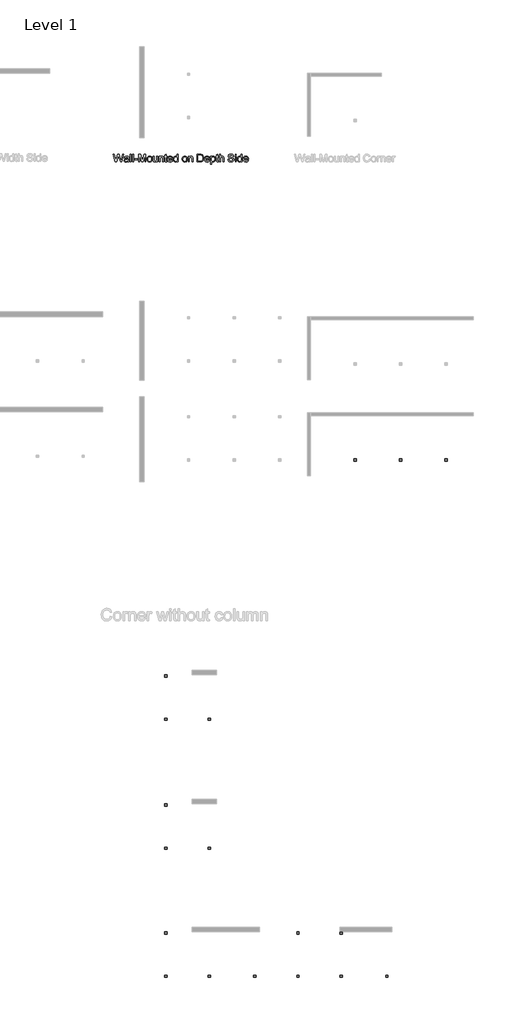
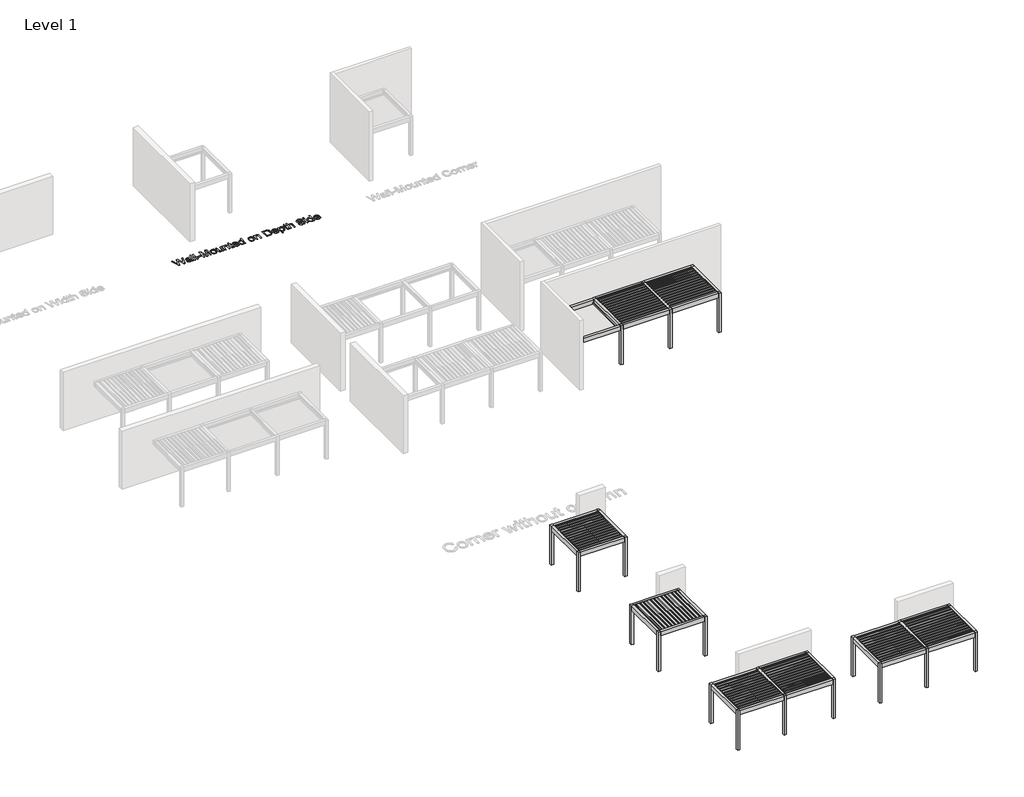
# One storey, part 65 of 80: 6 proxies.
"""IFC4 building model written with IfcOpenShell, lengths in millimetres."""

from ifc_helpers import new_model, si_unit, origin, origin_with_axes, place, context, project, spatial, polyline, outline, extrude, transform, mapped, element, save
from components import generic_models_92a7e284, generic_models_5641a38b, generic_models_9754287f, generic_models_edf925c2, generic_models_49bb953a

model = new_model("IFC4")

# Units and contexts
model_context = context("Model", 3, world=origin())
ifc_project = project(units=[si_unit("LENGTHUNIT", "METRE", prefix="MILLI")], contexts=[model_context])

# Site, building, storey
site = spatial("IfcSite", under=ifc_project)
building = spatial("IfcBuilding", under=site)
storey = spatial("IfcBuildingStorey", under=building, Name="Level 1", Elevation=0.0)

# Proxies
placement = place(None, origin())
generic_models_shape = generic_models_92a7e284(model_context)
element("IfcBuildingElementProxy", 1, Name="Renson_Amani_Patio_Cover : Renson_Amani_Patio_Cover", ObjectType="Renson_Amani_Patio_Cover : Renson_Amani_Patio_Cover", at=placement, inside=storey, context=model_context, shape_type="MappedRepresentation", body=[
    mapped(generic_models_shape, transform((192063.165057, 19428.5861401, 0.0), x_axis=(1.0, 0.0, 0.0), y_axis=(0.0, 1.0, 0.0), z_axis=(0.0, 0.0, 1.0))),
])
generic_models_2_shape = generic_models_5641a38b(model_context)
element("IfcBuildingElementProxy", 2, Name="Renson_Amani_Patio_Cover : Renson_Amani_Patio_Cover", ObjectType="Renson_Amani_Patio_Cover : Renson_Amani_Patio_Cover", at=placement, inside=storey, context=model_context, shape_type="MappedRepresentation", body=[
    mapped(generic_models_2_shape, transform((201674.0111744, 44984.0685101, 0.0), x_axis=(1.0, 0.0, 0.0), y_axis=(0.0, 1.0, 0.0), z_axis=(0.0, 0.0, 1.0))),
])
generic_models_3_shape = generic_models_9754287f(model_context)
element("IfcBuildingElementProxy", 3, Name="Renson_Amani_Patio_Cover : Renson_Amani_Patio_Cover", ObjectType="Renson_Amani_Patio_Cover : Renson_Amani_Patio_Cover", at=placement, inside=storey, context=model_context, shape_type="MappedRepresentation", body=[
    mapped(generic_models_3_shape, transform((200763.165057, 11004.0136657, 0.0), x_axis=(1.0, 0.0, 0.0), y_axis=(0.0, 1.0, 0.0), z_axis=(0.0, 0.0, 1.0))),
])
generic_models_4_shape = generic_models_edf925c2(model_context)
element("IfcBuildingElementProxy", 4, Name="Renson_Amani_Patio_Cover : Renson_Amani_Patio_Cover", ObjectType="Renson_Amani_Patio_Cover : Renson_Amani_Patio_Cover", at=placement, inside=storey, context=model_context, shape_type="MappedRepresentation", body=[
    mapped(generic_models_4_shape, transform((192063.165057, 27928.5861401, 0.0), x_axis=(1.0, 0.0, 0.0), y_axis=(0.0, 1.0, 0.0), z_axis=(0.0, 0.0, 1.0))),
])
generic_models_5_shape = generic_models_49bb953a(model_context)
element("IfcBuildingElementProxy", 5, Name="Renson_Amani_Patio_Cover : Renson_Amani_Patio_Cover", ObjectType="Renson_Amani_Patio_Cover : Renson_Amani_Patio_Cover", at=placement, inside=storey, context=model_context, shape_type="MappedRepresentation", body=[
    mapped(generic_models_5_shape, transform((192063.165057, 11004.0136657, 0.0), x_axis=(1.0, 0.0, 0.0), y_axis=(0.0, 1.0, 0.0), z_axis=(0.0, 0.0, 1.0))),
])
element("IfcBuildingElementProxy", 6, Name="500mm Arial", ObjectType="500mm Arial", at=placement, inside=storey, context=model_context, shape_type="SweptSolid", body=[
    extrude(outline(polyline([(187305.9311671, 63184.635256), (187168.9564376, 63686.9168067), (187233.7036687, 63686.9168067), (187313.1661797, 63356.8040297), (187337.691646, 63254.9007171), (187363.933895, 63345.0318059), (187463.5072884, 63686.9168067), (187556.8266878, 63686.9168067), (187629.1768136, 63439.0869693), (187660.1708716, 63347.1164705), (187683.0102122, 63254.9007171), (187706.7999145, 63353.8609738), (187786.9981895, 63686.9168067), (187851.7454206, 63686.9168067), (187714.6480638, 63184.635256), (187647.5709133, 63184.635256), (187527.1508736, 63572.1376242), (187510.3509291, 63626.2162775), (187491.46632, 63561.1011644), (187381.7148581, 63184.635256), (187305.9311671, 63184.635256)])), origin_with_axes(), (0.0, 0.0, 1.0), 5.0),
    extrude(outline(polyline([(188142.1269422, 63231.7241514), (188112.1292311, 63206.0030685), (188081.242472, 63189.1724673), (188048.7615575, 63179.8834469), (188013.9813805, 63176.7871068), (187986.026181, 63178.6495094), (187961.5122109, 63184.2367172), (187940.4394704, 63193.5487302), (187922.8079594, 63206.5855484), (187908.8859251, 63222.5194373), (187898.9416149, 63240.5226624), (187892.9750288, 63260.5952238), (187890.9861668, 63282.7371214), (187893.9905364, 63308.7647725), (187903.0036453, 63332.4011907), (187916.906519, 63352.6347005), (187934.5801832, 63368.4536262), (187955.3501875, 63380.4097911), (187978.5420816, 63389.055018), (188032.8659896, 63398.4973225), (188097.0613978, 63408.4301364), (188141.7590602, 63420.0797329), (188142.1269422, 63434.0592487), (188137.8043287, 63462.079594), (188124.8364884, 63480.4123801), (188111.7613491, 63488.3524998), (188095.8351244, 63494.0240139), (188055.4294186, 63498.5612252), (188018.0280825, 63495.5415272), (187991.9084608, 63486.482433), (187974.0968409, 63469.7284738), (187961.6195099, 63443.6241806), (187898.834316, 63451.4723298), (187909.7328201, 63485.8079827), (187925.99627, 63512.7859957), (187949.1421789, 63533.4180443), (187980.6880599, 63548.7158039), (188019.2696842, 63558.1887653), (188063.5228225, 63561.3464191), (188105.9672077, 63558.5566473), (188139.6130819, 63550.1873319), (188164.9816111, 63537.6027019), (188182.5939616, 63522.1669866), (188194.274215, 63503.0831081), (188201.8464527, 63479.5539888), (188204.912136, 63424.6169442), (188204.912136, 63346.5033339), (188208.1004466, 63237.4263223), (188212.8215989, 63210.4636377), (188220.6084345, 63184.635256), (188157.8232406, 63184.635256), (188147.7677994, 63206.462921), (188142.1269422, 63231.7241514)]), holes=[polyline([(188142.1269422, 63357.2945391), (188099.94314, 63346.840559), (188040.8367662, 63338.042048), (187986.8194265, 63327.8639794), (187972.7632686, 63320.9048784), (187962.3552739, 63311.3092897), (187955.9173389, 63299.8129773), (187953.7713606, 63287.1517053), (187958.4465277, 63268.4816941), (187972.4720287, 63253.1839344), (187995.5412955, 63242.9752091), (188027.3477597, 63239.5723006), (188061.0702759, 63243.3277626), (188090.8687175, 63254.5941487), (188115.0263019, 63271.1948238), (188131.8262463, 63290.9531526), (188139.2758567, 63311.3092897), (188141.7590602, 63339.513576), (188142.1269422, 63357.2945391)])]), origin_with_axes(), (0.0, 0.0, 1.0), 5.0),
    extrude(outline(polyline([(188291.2417775, 63184.635256), (188291.2417775, 63686.9168067), (188354.0269714, 63686.9168067), (188354.0269714, 63184.635256), (188291.2417775, 63184.635256)])), origin_with_axes(), (0.0, 0.0, 1.0), 5.0),
    extrude(outline(polyline([(188448.2047621, 63184.635256), (188448.2047621, 63686.9168067), (188510.989956, 63686.9168067), (188510.989956, 63184.635256), (188448.2047621, 63184.635256)])), origin_with_axes(), (0.0, 0.0, 1.0), 5.0),
    extrude(outline(polyline([(188573.7751498, 63333.7500914), (188573.7751498, 63396.5352852), (188769.9788806, 63396.5352852), (188769.9788806, 63333.7500914), (188573.7751498, 63333.7500914)])), origin_with_axes(), (0.0, 0.0, 1.0), 5.0),
    extrude(outline(polyline([(188848.4603729, 63184.635256), (188848.4603729, 63686.9168067), (188956.4950522, 63686.9168067), (189059.2567561, 63332.8917), (189079.9807752, 63258.947419), (189102.4215769, 63339.0230666), (189203.4664982, 63686.9168067), (189311.5011775, 63686.9168067), (189311.5011775, 63184.635256), (189248.7159837, 63184.635256), (189248.7159837, 63624.1316129), (189122.5324593, 63184.635256), (189037.4290911, 63184.635256), (188911.2455667, 63624.1316129), (188911.2455667, 63184.635256), (188848.4603729, 63184.635256)])), origin_with_axes(), (0.0, 0.0, 1.0), 5.0),
    extrude(outline(polyline([(189397.830819, 63369.0667629), (189401.2260633, 63416.8377728), (189411.411796, 63458.0022352), (189428.3880173, 63492.5601502), (189452.154727, 63520.5115176), (189476.0823851, 63538.376787), (189502.4932467, 63551.1376937), (189531.3873117, 63558.7942377), (189562.7645802, 63561.3464191), (189597.4029693, 63558.2385826), (189628.7227563, 63548.9150733), (189656.723941, 63533.3758911), (189681.4065236, 63511.621036), (189701.551895, 63484.3862721), (189715.9414459, 63452.4073632), (189724.5751765, 63415.6843095), (189727.4530867, 63374.2171108), (189722.3640524, 63310.7881235), (189716.0027596, 63284.7528081), (189707.0969496, 63262.5036116), (189695.7577536, 63243.2856095), (189682.0963024, 63226.3438772), (189666.1125961, 63211.6784147), (189647.8066348, 63199.2892221), (189607.0790322, 63182.4126356), (189562.7645802, 63176.7871068), (189527.6203534, 63179.8834469), (189496.0093265, 63189.1724673), (189467.9314996, 63204.6541679), (189443.3868728, 63226.3285488), (189423.4560993, 63253.8277279), (189409.2198325, 63286.7838233), (189400.6780724, 63325.196835), (189397.830819, 63369.0667629)]), holes=[polyline([(189460.6160129, 63369.1893902), (189462.4324302, 63338.7356588), (189467.8816823, 63312.3669504), (189476.963769, 63290.083265), (189489.6786905, 63271.8846025), (189505.1450627, 63257.7479704), (189522.4815017, 63247.6503761), (189541.6880076, 63241.5918195), (189562.7645802, 63239.5723006), (189583.7338539, 63241.6033158), (189602.8637177, 63247.6963613), (189620.1541715, 63257.8514372), (189635.6052152, 63272.0685435), (189648.3201367, 63290.4473149), (189657.4022235, 63313.087386), (189662.8514755, 63339.9887569), (189664.6678929, 63371.1514275), (189662.8399792, 63400.6394687), (189657.3562382, 63426.3183984), (189648.2166699, 63448.1882166), (189635.4212742, 63466.2489233), (189619.9127489, 63480.3855554), (189602.6337914, 63490.4831497), (189583.5844019, 63496.5417063), (189562.7645802, 63498.5612252), (189541.6880076, 63496.5493705), (189522.4815017, 63490.5138066), (189505.1450627, 63480.4545333), (189489.6786905, 63466.3715506), (189476.963769, 63448.2265376), (189467.8816823, 63425.9811732), (189462.4324302, 63399.6354574), (189460.6160129, 63369.1893902)])]), origin_with_axes(), (0.0, 0.0, 1.0), 5.0),
    extrude(outline(polyline([(190033.5309067, 63184.635256), (190033.5309067, 63248.0335865), (190010.8141935, 63216.8632516), (189984.3573467, 63194.5987267), (189954.1603662, 63181.2400117), (189920.2232522, 63176.7871068), (189889.6430613, 63179.9141037), (189861.178192, 63189.2950946), (189837.2965191, 63203.3972377), (189820.4659178, 63220.6876915), (189809.1382181, 63241.6876221), (189801.7652497, 63266.9181956), (189798.0864298, 63325.2888055), (189798.0864298, 63553.4982698), (189860.8716236, 63553.4982698), (189860.8716236, 63354.8419924), (189864.6730709, 63290.8305253), (189873.8241355, 63269.4780411), (189889.5051056, 63253.2452481), (189910.6736487, 63242.9905375), (189936.2874326, 63239.5723006), (189963.3727445, 63243.0671796), (189988.710617, 63253.5518164), (190009.6032486, 63270.060521), (190023.3528382, 63291.6276029), (190030.9863896, 63321.1654615), (190033.5309067, 63361.5864957), (190033.5309067, 63553.4982698), (190096.3161005, 63553.4982698), (190096.3161005, 63184.635256), (190033.5309067, 63184.635256)])), origin_with_axes(), (0.0, 0.0, 1.0), 5.0),
    extrude(outline(polyline([(190182.6457421, 63184.635256), (190182.6457421, 63553.4982698), (190245.4309359, 63553.4982698), (190245.4309359, 63501.9947905), (190267.2432725, 63527.961128), (190293.4395363, 63546.5085119), (190324.0197271, 63557.6369423), (190358.9838451, 63561.3464191), (190389.9319179, 63558.3573778), (190418.27416, 63549.3902542), (190441.9105782, 63535.5640226), (190458.7411795, 63517.9976573), (190470.1608497, 63496.7371436), (190477.5644749, 63471.8284669), (190480.8754128, 63411.1279377), (190480.8754128, 63184.635256), (190418.090219, 63184.635256), (190418.090219, 63402.6666518), (190416.2814658, 63435.1322379), (190410.8552064, 63458.2168331), (190400.8457505, 63474.7561944), (190385.2874078, 63487.586079), (190365.3451379, 63495.8174387), (190342.1839007, 63498.5612252), (190323.1191827, 63497.0207194), (190305.4110295, 63492.3992018), (190289.0594413, 63484.6966725), (190274.0644179, 63473.9131315), (190261.5372695, 63458.8223055), (190252.5893064, 63438.1979212), (190247.2205285, 63412.0399785), (190245.4309359, 63380.3484774), (190245.4309359, 63184.635256), (190182.6457421, 63184.635256)])), origin_with_axes(), (0.0, 0.0, 1.0), 5.0),
    extrude(outline(polyline([(190700.6235913, 63236.9971266), (190708.4717405, 63182.795846), (190661.5054725, 63176.7871068), (190631.3698057, 63179.3929376), (190608.8983472, 63187.21043), (190593.0181077, 63199.2585653), (190582.6560982, 63214.5563249), (190576.9539272, 63240.8292308), (190575.0532036, 63285.8028047), (190575.0532036, 63490.713076), (190527.9643082, 63490.713076), (190527.9643082, 63553.4982698), (190575.0532036, 63553.4982698), (190575.0532036, 63643.1388493), (190637.8383974, 63680.0496762), (190637.8383974, 63553.4982698), (190700.6235913, 63553.4982698), (190700.6235913, 63490.713076), (190637.8383974, 63490.713076), (190637.8383974, 63287.6422146), (190641.1493354, 63255.2685991), (190651.8792269, 63243.8029435), (190673.2776963, 63239.5723006), (190700.6235913, 63236.9971266)])), origin_with_axes(), (0.0, 0.0, 1.0), 5.0),
    extrude(outline(polyline([(191021.6619457, 63294.5093452), (191083.2208663, 63286.661196), (191073.7823938, 63262.0054381), (191061.0406476, 63240.2774078), (191044.9956277, 63221.477105), (191025.647334, 63205.6045297), (191003.195036, 63192.9969072), (190977.8380031, 63183.9914625), (190949.5762352, 63178.5881957), (190918.4097324, 63176.7871068), (190879.452562, 63179.8949432), (190844.7413629, 63189.2184525), (190814.2761352, 63204.7576347), (190788.0568788, 63226.5124898), (190766.972642, 63253.8775453), (190751.9124728, 63286.2473287), (190742.8763713, 63323.6218402), (190739.8643374, 63366.0010796), (190742.9070281, 63409.8173581), (190752.0351001, 63448.4373034), (190767.2485535, 63481.8609155), (190788.5473881, 63510.0881944), (190814.6976666, 63532.5136677), (190844.4654514, 63548.5318629), (190877.8507425, 63558.14278), (190914.8535398, 63561.3464191), (190950.6645528, 63558.1504442), (190983.0496647, 63548.5625197), (191012.0088755, 63532.5826456), (191037.5421852, 63510.2108217), (191058.3849995, 63482.0448565), (191073.272724, 63448.682558), (191082.2053587, 63410.1239264), (191085.1829036, 63366.3689616), (191084.8150216, 63349.4463898), (190802.6495313, 63349.4463898), (190806.2861981, 63324.3920931), (190813.5173786, 63302.4494649), (190824.3430727, 63283.6185053), (190838.7632805, 63267.8992142), (190855.9809243, 63255.5061895), (190875.1989264, 63246.654029), (190896.4172869, 63241.3427327), (190919.6360057, 63239.5723006), (190953.0519536, 63242.8525817), (190981.1949263, 63252.6934251), (191004.0649236, 63269.7079674), (191021.6619457, 63294.5093452)]), holes=[polyline([(190802.6495313, 63412.2315837), (191022.3977097, 63412.2315837), (191013.905767, 63445.4022769), (190997.2591067, 63469.1306656), (190980.1372655, 63482.0065354), (190960.6548482, 63491.2035853), (190938.8118547, 63496.7218152), (190914.6082851, 63498.5612252), (190872.2865273, 63492.6904417), (190853.873267, 63485.3519623), (190837.2917525, 63475.0780912), (190823.3773824, 63462.3440092), (190812.9655556, 63447.6248973), (190806.0562718, 63430.9207554), (190802.6495313, 63412.2315837)])]), origin_with_axes(), (0.0, 0.0, 1.0), 5.0),
    extrude(outline(polyline([(191375.5644251, 63184.635256), (191375.5644251, 63243.8642572), (191356.7794507, 63214.5180039), (191334.0244165, 63193.5563944), (191307.2993224, 63180.9794287), (191276.6041684, 63176.7871068), (191236.0145216, 63182.8571597), (191198.8584401, 63201.0673184), (191167.4045295, 63230.1453245), (191143.9213955, 63268.8189192), (191129.2980862, 63315.5246042), (191124.4236497, 63368.6988809), (191128.9148758, 63421.2140357), (191142.3885538, 63468.6401563), (191152.4899803, 63489.7703784), (191164.8293555, 63508.2794412), (191179.4066796, 63524.1673449), (191196.2219525, 63537.4340894), (191234.19044, 63555.3683366), (191276.3589137, 63561.3464191), (191307.0770603, 63557.0697909), (191334.2390143, 63544.2399063), (191357.2622958, 63524.573548), (191375.5644251, 63499.7874985), (191375.5644251, 63686.9168067), (191438.3496189, 63686.9168067), (191438.3496189, 63184.635256), (191375.5644251, 63184.635256)]), holes=[polyline([(191187.2088436, 63368.9441356), (191188.9792757, 63338.4980684), (191194.290572, 63312.1523526), (191203.1427325, 63289.9069882), (191215.5357572, 63271.7619752), (191230.3353433, 63257.6789926), (191246.407188, 63247.6197192), (191263.7512912, 63241.5841553), (191282.367653, 63239.5723006), (191301.0721532, 63241.4921848), (191318.3127896, 63247.2518373), (191334.0895622, 63256.8512581), (191348.4024711, 63270.2904472), (191360.285826, 63287.6767036), (191368.7739366, 63309.1173261), (191373.866803, 63334.6123148), (191375.5644251, 63364.1616696), (191373.8361461, 63396.5582778), (191368.6513093, 63424.3410327), (191360.0099145, 63447.5099342), (191347.9119618, 63466.0649823), (191333.2848204, 63480.2820886), (191317.0558595, 63490.4371645), (191299.225079, 63496.53021), (191279.792479, 63498.5612252), (191260.8082352, 63496.6106842), (191243.464132, 63490.7590612), (191227.7601693, 63481.0063563), (191213.6963472, 63467.3525693), (191202.1080644, 63449.4987962), (191193.8307195, 63427.1461329), (191188.8643125, 63400.2945794), (191187.2088436, 63368.9441356)])]), origin_with_axes(), (0.0, 0.0, 1.0), 5.0),
    extrude(outline(polyline([(191713.034842, 63369.0667629), (191716.4300863, 63416.8377728), (191726.615819, 63458.0022352), (191743.5920402, 63492.5601502), (191767.35875, 63520.5115176), (191791.2864081, 63538.376787), (191817.6972696, 63551.1376937), (191846.5913347, 63558.7942377), (191877.9686032, 63561.3464191), (191912.6069923, 63558.2385826), (191943.9267792, 63548.9150733), (191971.927964, 63533.3758911), (191996.6105466, 63511.621036), (192016.755918, 63484.3862721), (192031.1454689, 63452.4073632), (192039.7791995, 63415.6843095), (192042.6571097, 63374.2171108), (192037.5680754, 63310.7881235), (192031.2067826, 63284.7528081), (192022.3009726, 63262.5036116), (192010.9617765, 63243.2856095), (191997.3003254, 63226.3438772), (191981.3166191, 63211.6784147), (191963.0106577, 63199.2892221), (191922.2830552, 63182.4126356), (191877.9686032, 63176.7871068), (191842.8243763, 63179.8834469), (191811.2133495, 63189.1724673), (191783.1355226, 63204.6541679), (191758.5908957, 63226.3285488), (191738.6601222, 63253.8277279), (191724.4238554, 63286.7838233), (191715.8820954, 63325.196835), (191713.034842, 63369.0667629)]), holes=[polyline([(191775.8200359, 63369.1893902), (191777.6364532, 63338.7356588), (191783.0857053, 63312.3669504), (191792.167792, 63290.083265), (191804.8827135, 63271.8846025), (191820.3490857, 63257.7479704), (191837.6855247, 63247.6503761), (191856.8920305, 63241.5918195), (191877.9686032, 63239.5723006), (191898.9378769, 63241.6033158), (191918.0677407, 63247.6963613), (191935.3581944, 63257.8514372), (191950.8092382, 63272.0685435), (191963.5241597, 63290.4473149), (191972.6062464, 63313.087386), (191978.0554985, 63339.9887569), (191979.8719158, 63371.1514275), (191978.0440022, 63400.6394687), (191972.5602612, 63426.3183984), (191963.4206929, 63448.1882166), (191950.6252972, 63466.2489233), (191935.1167719, 63480.3855554), (191917.8378144, 63490.4831497), (191898.7884248, 63496.5417063), (191877.9686032, 63498.5612252), (191856.8920305, 63496.5493705), (191837.6855247, 63490.5138066), (191820.3490857, 63480.4545333), (191804.8827135, 63466.3715506), (191792.167792, 63448.2265376), (191783.0857053, 63425.9811732), (191777.6364532, 63399.6354574), (191775.8200359, 63369.1893902)])]), origin_with_axes(), (0.0, 0.0, 1.0), 5.0),
    extrude(outline(polyline([(192113.2904528, 63184.635256), (192113.2904528, 63553.4982698), (192176.0756466, 63553.4982698), (192176.0756466, 63501.9947905), (192197.8879832, 63527.961128), (192224.084247, 63546.5085119), (192254.6644378, 63557.6369423), (192289.6285558, 63561.3464191), (192320.5766286, 63558.3573778), (192348.9188707, 63549.3902542), (192372.5552889, 63535.5640226), (192389.3858901, 63517.9976573), (192400.8055604, 63496.7371436), (192408.2091856, 63471.8284669), (192411.5201235, 63411.1279377), (192411.5201235, 63184.635256), (192348.7349297, 63184.635256), (192348.7349297, 63402.6666518), (192346.9261765, 63435.1322379), (192341.4999171, 63458.2168331), (192331.4904612, 63474.7561944), (192315.9321184, 63487.586079), (192295.9898486, 63495.8174387), (192272.8286113, 63498.5612252), (192253.7638934, 63497.0207194), (192236.0557402, 63492.3992018), (192219.704152, 63484.6966725), (192204.7091286, 63473.9131315), (192192.1819802, 63458.8223055), (192183.2340171, 63438.1979212), (192177.8652392, 63412.0399785), (192176.0756466, 63380.3484774), (192176.0756466, 63184.635256), (192113.2904528, 63184.635256)])), origin_with_axes(), (0.0, 0.0, 1.0), 5.0),
    extrude(outline(polyline([(192701.901645, 63184.635256), (192701.901645, 63686.9168067), (192875.1740648, 63686.9168067), (192926.9534556, 63685.1080536), (192964.8146443, 63679.6817942), (193004.8524681, 63665.7329352), (193038.636298, 63643.751986), (193057.2526598, 63625.7870819), (193073.3704897, 63605.4922585), (193086.9897877, 63582.8675158), (193098.1105539, 63557.9128538), (193112.9178042, 63501.9334768), (193117.8535543, 63438.4738327), (193114.5119595, 63384.563792), (193104.4871751, 63337.122343), (193089.2200723, 63296.7319656), (193070.1515222, 63263.9751396), (193048.2012298, 63238.116101), (193024.2889002, 63218.4190859), (192996.8357063, 63203.811105), (192964.2628213, 63193.2191692), (192926.5089315, 63186.7812343), (192883.5127233, 63184.635256), (192701.901645, 63184.635256)]), holes=[polyline([(192764.6868389, 63247.4204498), (192875.7872014, 63247.4204498), (192921.741794, 63249.6890555), (192956.598613, 63256.4948724), (192982.9021757, 63267.4393617), (193003.1969991, 63282.1239847), (193025.0093357, 63309.3012671), (193041.3954129, 63344.4799829), (193051.6501235, 63387.8134162), (193055.0683604, 63439.4548513), (193053.3937309, 63475.9058257), (193048.3698424, 63507.8809024), (193039.9966949, 63535.3800816), (193028.2742884, 63558.4033631), (193014.1529848, 63577.4719132), (192998.5831457, 63593.106898), (192981.5647714, 63605.3083175), (192963.0978616, 63614.0761717), (192926.9841124, 63621.6177526), (192874.0704188, 63624.1316129), (192764.6868389, 63624.1316129), (192764.6868389, 63247.4204498)])]), origin_with_axes(), (0.0, 0.0, 1.0), 5.0),
    extrude(outline(polyline([(193454.5882072, 63294.5093452), (193516.1471277, 63286.661196), (193506.7086553, 63262.0054381), (193493.9669091, 63240.2774078), (193477.9218891, 63221.477105), (193458.5735955, 63205.6045297), (193436.1212974, 63192.9969072), (193410.7642645, 63183.9914625), (193382.5024966, 63178.5881957), (193351.3359939, 63176.7871068), (193312.3788234, 63179.8949432), (193277.6676243, 63189.2184525), (193247.2023966, 63204.7576347), (193220.9831402, 63226.5124898), (193199.8989034, 63253.8775453), (193184.8387342, 63286.2473287), (193175.8026327, 63323.6218402), (193172.7905989, 63366.0010796), (193175.8332895, 63409.8173581), (193184.9613615, 63448.4373034), (193200.1748149, 63481.8609155), (193221.4736496, 63510.0881944), (193247.6239281, 63532.5136677), (193277.3917128, 63548.5318629), (193310.7770039, 63558.14278), (193347.7798012, 63561.3464191), (193383.5908142, 63558.1504442), (193415.9759261, 63548.5625197), (193444.9351369, 63532.5826456), (193470.4684466, 63510.2108217), (193491.3112609, 63482.0448565), (193506.1989854, 63448.682558), (193515.1316201, 63410.1239264), (193518.109165, 63366.3689616), (193517.741283, 63349.4463898), (193235.5757927, 63349.4463898), (193239.2124595, 63324.3920931), (193246.44364, 63302.4494649), (193257.2693341, 63283.6185053), (193271.6895419, 63267.8992142), (193288.9071857, 63255.5061895), (193308.1251878, 63246.654029), (193329.3435483, 63241.3427327), (193352.5622672, 63239.5723006), (193385.9782151, 63242.8525817), (193414.1211877, 63252.6934251), (193436.9911851, 63269.7079674), (193454.5882072, 63294.5093452)]), holes=[polyline([(193235.5757927, 63412.2315837), (193455.3239712, 63412.2315837), (193446.8320284, 63445.4022769), (193430.1853682, 63469.1306656), (193413.063527, 63482.0065354), (193393.5811096, 63491.2035853), (193371.7381162, 63496.7218152), (193347.5345466, 63498.5612252), (193305.2127887, 63492.6904417), (193286.7995284, 63485.3519623), (193270.2180139, 63475.0780912), (193256.3036439, 63462.3440092), (193245.891817, 63447.6248973), (193238.9825333, 63430.9207554), (193235.5757927, 63412.2315837)])]), origin_with_axes(), (0.0, 0.0, 1.0), 5.0),
    extrude(outline(polyline([(193580.8943589, 63043.3685698), (193580.8943589, 63553.4982698), (193643.6795527, 63553.4982698), (193643.6795527, 63491.9393493), (193664.1583171, 63522.3049423), (193687.0896281, 63543.9946516), (193713.8223864, 63557.0084772), (193745.7054927, 63561.3464191), (193767.6021356, 63559.8289058), (193788.1652063, 63555.2763661), (193807.3947048, 63547.6888), (193825.290631, 63537.0662074), (193841.4621104, 63523.6844998), (193855.5182683, 63507.8195888), (193877.2846196, 63468.6401563), (193890.436401, 63422.3789954), (193894.8203281, 63371.8871915), (193889.8692496, 63318.1917487), (193875.016014, 63270.1678199), (193863.9948826, 63248.8919778), (193850.7358023, 63230.2526234), (193835.2387733, 63214.2497566), (193817.5037954, 63200.8833774), (193778.7995438, 63182.8111744), (193738.1025981, 63176.7871068), (193709.2391899, 63180.8184803), (193683.4721218, 63192.9126009), (193661.4145305, 63211.1687449), (193643.6795527, 63233.6861887), (193643.6795527, 63043.3685698), (193580.8943589, 63043.3685698)]), holes=[polyline([(193643.6795527, 63366.1237069), (193645.3771748, 63335.8654128), (193650.4700412, 63309.8377617), (193658.9581518, 63288.0407535), (193670.8415067, 63270.4743882), (193685.1467513, 63256.9547249), (193700.9005314, 63247.2978225), (193718.1028467, 63241.5036811), (193736.7536975, 63239.5723006), (193755.6727955, 63241.572659), (193773.1893434, 63247.573734), (193789.3033412, 63257.5755257), (193804.0147889, 63271.5780342), (193816.27369, 63289.7805287), (193825.0300479, 63312.3822788), (193830.2838626, 63339.3832844), (193832.0351342, 63370.7835456), (193830.3260158, 63400.7812566), (193825.1986605, 63426.7629225), (193816.6530683, 63448.7285433), (193804.6892393, 63466.678119), (193790.3495057, 63480.6269779), (193774.6761998, 63490.5904486), (193757.6693217, 63496.5685311), (193739.3288714, 63498.5612252), (193721.0459027, 63496.4420716), (193703.8435873, 63490.0846109), (193687.7219253, 63479.488843), (193672.6809167, 63464.654768), (193659.9928199, 63445.7816552), (193650.9298937, 63423.0687741), (193645.4921379, 63396.5161247), (193643.6795527, 63366.1237069)])]), origin_with_axes(), (0.0, 0.0, 1.0), 5.0),
    extrude(outline(polyline([(194098.8722081, 63236.9971266), (194106.7203573, 63182.795846), (194059.7540892, 63176.7871068), (194029.6184225, 63179.3929376), (194007.1469639, 63187.21043), (193991.2667245, 63199.2585653), (193980.9047149, 63214.5563249), (193975.202544, 63240.8292308), (193973.3018204, 63285.8028047), (193973.3018204, 63490.713076), (193926.212925, 63490.713076), (193926.212925, 63553.4982698), (193973.3018204, 63553.4982698), (193973.3018204, 63643.1388493), (194036.0870142, 63680.0496762), (194036.0870142, 63553.4982698), (194098.8722081, 63553.4982698), (194098.8722081, 63490.713076), (194036.0870142, 63490.713076), (194036.0870142, 63287.6422146), (194039.3979522, 63255.2685991), (194050.1278437, 63243.8029435), (194071.5263131, 63239.5723006), (194098.8722081, 63236.9971266)])), origin_with_axes(), (0.0, 0.0, 1.0), 5.0),
    extrude(outline(polyline([(194161.6574019, 63184.635256), (194161.6574019, 63686.9168067), (194224.4425958, 63686.9168067), (194224.4425958, 63502.2400452), (194247.5041983, 63528.0990837), (194273.4015579, 63546.5698256), (194302.1346746, 63557.6522707), (194333.7035483, 63561.3464191), (194371.6260507, 63557.3150455), (194404.2142641, 63545.2209249), (194429.8740332, 63526.0144191), (194447.0112028, 63500.6458898), (194456.6681052, 63465.7890708), (194459.8870727, 63418.1176956), (194459.8870727, 63184.635256), (194397.1018788, 63184.635256), (194397.1018788, 63411.618447), (194392.1048151, 63450.9205068), (194385.8584853, 63465.9270266), (194377.1136237, 63477.8372061), (194366.0771639, 63486.9039645), (194352.9560394, 63493.3802204), (194320.4597965, 63498.5612252), (194293.9263076, 63495.0663463), (194269.0176308, 63484.5817094), (194248.3855823, 63468.1189901), (194234.681978, 63446.6898639), (194227.0024413, 63418.2096661), (194224.4425958, 63380.5937321), (194224.4425958, 63184.635256), (194161.6574019, 63184.635256)])), origin_with_axes(), (0.0, 0.0, 1.0), 5.0),
    extrude(outline(polyline([(194726.7241465, 63357.2945391), (194789.5093403, 63357.2945391), (194796.7136961, 63322.4530484), (194809.7428501, 63294.4480316), (194830.0683303, 63272.2218277), (194859.1616648, 63254.7167761), (194894.723591, 63243.3584195), (194934.4548464, 63239.5723006), (194969.4342928, 63242.4387145), (195000.0604689, 63251.0379561), (195024.8771752, 63264.6495899), (195042.428212, 63282.5531804), (195052.8668636, 63303.1085869), (195056.3464142, 63324.6756688), (195053.7405834, 63345.6909278), (195045.923091, 63363.8551013), (195030.0428515, 63379.3521304), (195003.2487795, 63392.3659559), (194911.8301037, 63416.3395993), (194851.8193533, 63432.2045103), (194813.42167, 63447.3030005), (194782.1670289, 63468.4255584), (194760.0174671, 63494.0240139), (194746.8197005, 63523.546544), (194742.420445, 63556.4413258), (194747.8620328, 63593.2141969), (194764.1867963, 63627.5038645), (194776.3230701, 63643.0315504), (194790.9655399, 63656.5665421), (194827.7690678, 63677.6584432), (194871.9455641, 63690.4883278), (194920.8432126, 63694.764956), (194973.8182199, 63690.2890584), (195020.1713513, 63676.8613655), (195058.2471378, 63654.757789), (195073.5602259, 63640.5560111), (195086.3901105, 63624.2542402), (195104.2017304, 63587.2514429), (195111.2834588, 63545.6501206), (195048.4982649, 63545.6501206), (195044.2982788, 63565.6843609), (195036.9712958, 63583.1127704), (195026.5173157, 63597.9353492), (195012.9363387, 63610.1520971), (194995.9754459, 63619.7017005), (194975.3817184, 63626.5228459), (194923.2957593, 63631.9797621), (194869.9835268, 63626.5841595), (194849.6043971, 63619.8396563), (194833.4099251, 63610.3973517), (194821.0705498, 63599.0466593), (194812.2567104, 63586.5769926), (194806.9684067, 63572.9883514), (194805.2056388, 63558.2807358), (194810.2027026, 63534.1538082), (194825.1938939, 63514.748033), (194838.9588119, 63506.1181345), (194860.6331927, 63497.3962656), (194927.7103432, 63479.6766161), (194996.933472, 63462.8460148), (195038.8107057, 63448.1613919), (195074.6025582, 63425.383365), (195099.5725486, 63397.2710492), (195114.2418432, 63364.1310128), (195119.131608, 63326.2698241), (195113.5060792, 63287.5655726), (195096.6294926, 63251.1605835), (195069.1916272, 63219.8293002), (195031.8822615, 63196.3461662), (194987.0159865, 63181.6768716), (194936.9073931, 63176.7871068), (194875.3944578, 63182.060082), (194848.719181, 63188.6513011), (194824.7646982, 63197.8790078), (194803.3853893, 63209.7585306), (194784.4356345, 63224.3051978), (194767.9154336, 63241.5190095), (194753.8247868, 63261.3999657), (194742.4740944, 63283.3042728), (194734.1737569, 63306.5881374), (194728.9237743, 63331.2515595), (194726.7241465, 63357.2945391)])), origin_with_axes(), (0.0, 0.0, 1.0), 5.0),
    extrude(outline(polyline([(195205.4612496, 63624.1316129), (195205.4612496, 63686.9168067), (195268.2464434, 63686.9168067), (195268.2464434, 63624.1316129), (195205.4612496, 63624.1316129)])), origin_with_axes(), (0.0, 0.0, 1.0), 5.0),
    extrude(outline(polyline([(195205.4612496, 63184.635256), (195205.4612496, 63553.4982698), (195268.2464434, 63553.4982698), (195268.2464434, 63184.635256), (195205.4612496, 63184.635256)])), origin_with_axes(), (0.0, 0.0, 1.0), 5.0),
    extrude(outline(polyline([(195590.0205618, 63184.635256), (195590.0205618, 63243.8642572), (195571.2355875, 63214.5180039), (195548.4805532, 63193.5563944), (195521.7554591, 63180.9794287), (195491.0603051, 63176.7871068), (195450.4706583, 63182.8571597), (195413.3145768, 63201.0673184), (195381.8606662, 63230.1453245), (195358.3775322, 63268.8189192), (195343.7542229, 63315.5246042), (195338.8797865, 63368.6988809), (195343.3710125, 63421.2140357), (195356.8446906, 63468.6401563), (195366.946117, 63489.7703784), (195379.2854923, 63508.2794412), (195393.8628163, 63524.1673449), (195410.6780892, 63537.4340894), (195448.6465768, 63555.3683366), (195490.8150505, 63561.3464191), (195521.5331971, 63557.0697909), (195548.6951511, 63544.2399063), (195571.7184326, 63524.573548), (195590.0205618, 63499.7874985), (195590.0205618, 63686.9168067), (195652.8057557, 63686.9168067), (195652.8057557, 63184.635256), (195590.0205618, 63184.635256)]), holes=[polyline([(195401.6649803, 63368.9441356), (195403.4354124, 63338.4980684), (195408.7467087, 63312.1523526), (195417.5988692, 63289.9069882), (195429.9918939, 63271.7619752), (195444.79148, 63257.6789926), (195460.8633247, 63247.6197192), (195478.2074279, 63241.5841553), (195496.8237897, 63239.5723006), (195515.5282899, 63241.4921848), (195532.7689263, 63247.2518373), (195548.545699, 63256.8512581), (195562.8586079, 63270.2904472), (195574.7419627, 63287.6767036), (195583.2300734, 63309.1173261), (195588.3229397, 63334.6123148), (195590.0205618, 63364.1616696), (195588.2922829, 63396.5582778), (195583.107446, 63424.3410327), (195574.4660512, 63447.5099342), (195562.3680985, 63466.0649823), (195547.7409571, 63480.2820886), (195531.5119962, 63490.4371645), (195513.6812157, 63496.53021), (195494.2486158, 63498.5612252), (195475.264372, 63496.6106842), (195457.9202687, 63490.7590612), (195442.2163061, 63481.0063563), (195428.152484, 63467.3525693), (195416.5642011, 63449.4987962), (195408.2868562, 63427.1461329), (195403.3204493, 63400.2945794), (195401.6649803, 63368.9441356)])]), origin_with_axes(), (0.0, 0.0, 1.0), 5.0),
    extrude(outline(polyline([(196005.2367071, 63294.5093452), (196066.7956276, 63286.661196), (196057.3571552, 63262.0054381), (196044.615409, 63240.2774078), (196028.570389, 63221.477105), (196009.2220954, 63205.6045297), (195986.7697973, 63192.9969072), (195961.4127644, 63183.9914625), (195933.1509965, 63178.5881957), (195901.9844938, 63176.7871068), (195863.0273233, 63179.8949432), (195828.3161242, 63189.2184525), (195797.8508965, 63204.7576347), (195771.6316401, 63226.5124898), (195750.5474033, 63253.8775453), (195735.4872341, 63286.2473287), (195726.4511326, 63323.6218402), (195723.4390988, 63366.0010796), (195726.4817894, 63409.8173581), (195735.6098614, 63448.4373034), (195750.8233148, 63481.8609155), (195772.1221495, 63510.0881944), (195798.272428, 63532.5136677), (195828.0402127, 63548.5318629), (195861.4255038, 63558.14278), (195898.4283011, 63561.3464191), (195934.2393141, 63558.1504442), (195966.624426, 63548.5625197), (195995.5836368, 63532.5826456), (196021.1169465, 63510.2108217), (196041.9597608, 63482.0448565), (196056.8474853, 63448.682558), (196065.78012, 63410.1239264), (196068.7576649, 63366.3689616), (196068.3897829, 63349.4463898), (195786.2242926, 63349.4463898), (195789.8609594, 63324.3920931), (195797.0921399, 63302.4494649), (195807.917834, 63283.6185053), (195822.3380418, 63267.8992142), (195839.5556856, 63255.5061895), (195858.7736877, 63246.654029), (195879.9920482, 63241.3427327), (195903.2107671, 63239.5723006), (195936.626715, 63242.8525817), (195964.7696876, 63252.6934251), (195987.639685, 63269.7079674), (196005.2367071, 63294.5093452)]), holes=[polyline([(195786.2242926, 63412.2315837), (196005.9724711, 63412.2315837), (195997.4805283, 63445.4022769), (195980.8338681, 63469.1306656), (195963.7120269, 63482.0065354), (195944.2296095, 63491.2035853), (195922.3866161, 63496.7218152), (195898.1830465, 63498.5612252), (195855.8612886, 63492.6904417), (195837.4480283, 63485.3519623), (195820.8665138, 63475.0780912), (195806.9521438, 63462.3440092), (195796.5403169, 63447.6248973), (195789.6310332, 63430.9207554), (195786.2242926, 63412.2315837)])]), origin_with_axes(), (0.0, 0.0, 1.0), 5.0),
])

save(model, "model.ifc")
